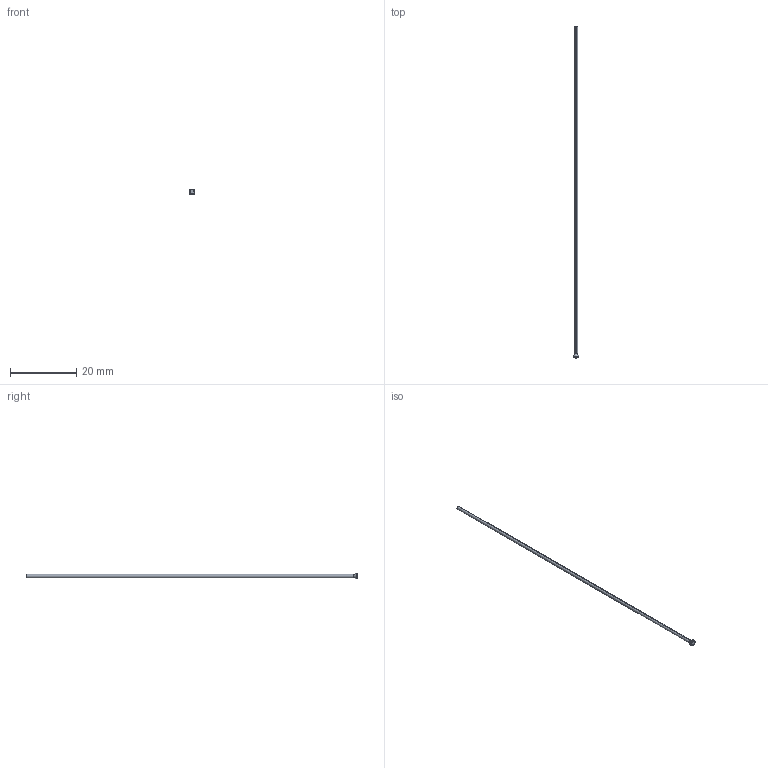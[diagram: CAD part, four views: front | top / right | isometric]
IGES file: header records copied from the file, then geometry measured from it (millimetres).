
Start section: SolidWorks IGES file using analytic representation for surfaces
Global section: file name: D:\Cleonir_particular\Matripeças\Pinos Extradores D DIN 1530\PD01,0100.IGS; native system: SolidWorks 2013; preprocessor: SolidWorks 2013; author: Cleonir; date: 130227.145235; units: millimetre
Bounding box: 1.8 x 100 x 1.8 mm (x, y, z)
Surface area: 323.7 mm2 (no closed solid volume)
Topology: 0 solids, 0 shells, 273 faces, 1750 edges, 1750 vertices
Faces by surface type: bspline 259, revolution 14
